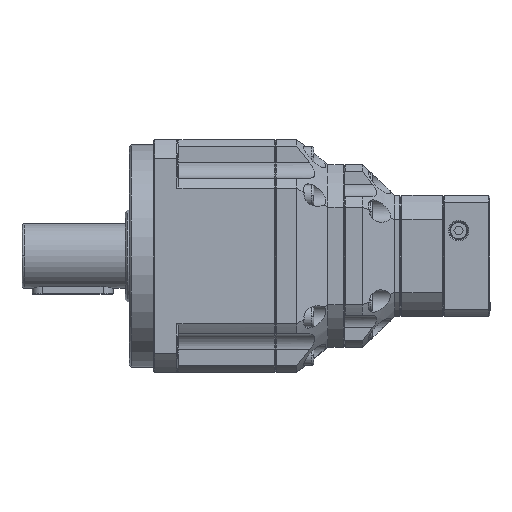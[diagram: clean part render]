
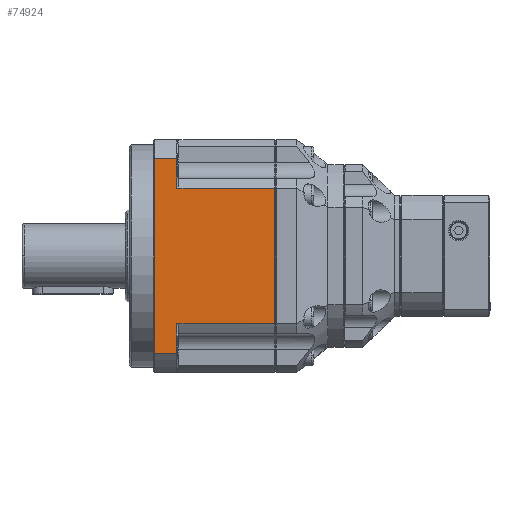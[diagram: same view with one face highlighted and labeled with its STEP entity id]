
A CAD part, left-side view. The second image highlights one B-rep face of the part: STEP entity #74924.
In plain terms, the highlighted planar face has unit normal (1, 0, 0).
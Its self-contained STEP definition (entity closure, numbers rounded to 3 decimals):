
#4573 = CARTESIAN_POINT ( 'NONE',  ( -57.5, -4.611, 33.407 ) ) ;
#5194 = CARTESIAN_POINT ( 'NONE',  ( -57.5, -4.611, 48.153 ) ) ;
#6293 = EDGE_CURVE ( 'NONE', #39602, #89781, #100715, .T. ) ;
#6924 = VECTOR ( 'NONE', #90821, 1000. ) ;
#13587 = DIRECTION ( 'NONE',  ( 1., 0., 0. ) ) ;
#15320 = VERTEX_POINT ( 'NONE', #50608 ) ;
#15708 = EDGE_LOOP ( 'NONE', ( #102099, #62861, #65516, #45452, #30607, #35728, #26485, #18986 ) ) ;
#18986 = ORIENTED_EDGE ( 'NONE', *, *, #101009, .F. ) ;
#21243 = CARTESIAN_POINT ( 'NONE',  ( -57.5, 24.889, 48.153 ) ) ;
#22762 = CARTESIAN_POINT ( 'NONE',  ( -57.5, 24.889, 0. ) ) ;
#22799 = VERTEX_POINT ( 'NONE', #61180 ) ;
#23079 = VERTEX_POINT ( 'NONE', #21243 ) ;
#24602 = DIRECTION ( 'NONE',  ( 0., 0., 1. ) ) ;
#25306 = CARTESIAN_POINT ( 'NONE',  ( -57.5, 13.889, 33.407 ) ) ;
#26485 = ORIENTED_EDGE ( 'NONE', *, *, #43613, .F. ) ;
#27781 = VECTOR ( 'NONE', #54267, 1000. ) ;
#28654 = EDGE_CURVE ( 'NONE', #82470, #22799, #99546, .T. ) ;
#30410 = LINE ( 'NONE', #4573, #27781 ) ;
#30607 = ORIENTED_EDGE ( 'NONE', *, *, #88389, .F. ) ;
#31069 = CARTESIAN_POINT ( 'NONE',  ( -57.5, 13.889, 0. ) ) ;
#31195 = FACE_OUTER_BOUND ( 'NONE', #15708, .T. ) ;
#35728 = ORIENTED_EDGE ( 'NONE', *, *, #42107, .T. ) ;
#39602 = VERTEX_POINT ( 'NONE', #58787 ) ;
#39853 = LINE ( 'NONE', #73949, #6924 ) ;
#42107 = EDGE_CURVE ( 'NONE', #89035, #75285, #47083, .T. ) ;
#43613 = EDGE_CURVE ( 'NONE', #23079, #75285, #103329, .T. ) ;
#43999 = VECTOR ( 'NONE', #64089, 1000. ) ;
#44933 = DIRECTION ( 'NONE',  ( 0., -1., 0. ) ) ;
#45452 = ORIENTED_EDGE ( 'NONE', *, *, #6293, .F. ) ;
#47057 = CARTESIAN_POINT ( 'NONE',  ( -57.5, -34.111, 48.153 ) ) ;
#47083 = LINE ( 'NONE', #105561, #66923 ) ;
#48770 = CARTESIAN_POINT ( 'NONE',  ( -57.5, 24.889, -48.153 ) ) ;
#50608 = CARTESIAN_POINT ( 'NONE',  ( -57.5, -34.111, 33.407 ) ) ;
#54267 = DIRECTION ( 'NONE',  ( 0., 1., 0. ) ) ;
#56424 = DIRECTION ( 'NONE',  ( 0., 0., 1. ) ) ;
#58070 = CARTESIAN_POINT ( 'NONE',  ( -57.5, -34.111, 0. ) ) ;
#58787 = CARTESIAN_POINT ( 'NONE',  ( -57.5, 13.889, -33.407 ) ) ;
#59197 = VECTOR ( 'NONE', #24602, 1000. ) ;
#59968 = EDGE_CURVE ( 'NONE', #15320, #82470, #30410, .T. ) ;
#61180 = CARTESIAN_POINT ( 'NONE',  ( -57.5, 13.889, 48.153 ) ) ;
#62861 = ORIENTED_EDGE ( 'NONE', *, *, #59968, .F. ) ;
#63665 = DIRECTION ( 'NONE',  ( 0., 1., 0. ) ) ;
#64089 = DIRECTION ( 'NONE',  ( 0., 1., 0. ) ) ;
#65516 = ORIENTED_EDGE ( 'NONE', *, *, #92688, .F. ) ;
#66850 = CARTESIAN_POINT ( 'NONE',  ( -57.5, 13.889, -48.153 ) ) ;
#66923 = VECTOR ( 'NONE', #63665, 1000. ) ;
#71062 = AXIS2_PLACEMENT_3D ( 'NONE', #47057, #13587, #72492 ) ;
#72492 = DIRECTION ( 'NONE',  ( 0., 0., -1. ) ) ;
#73949 = CARTESIAN_POINT ( 'NONE',  ( -57.5, 13.889, 0. ) ) ;
#74924 = ADVANCED_FACE ( 'NONE', ( #31195 ), #105553, .T. ) ;
#75285 = VERTEX_POINT ( 'NONE', #48770 ) ;
#78327 = VECTOR ( 'NONE', #44933, 1000. ) ;
#81526 = LINE ( 'NONE', #58070, #59197 ) ;
#82470 = VERTEX_POINT ( 'NONE', #25306 ) ;
#82562 = CARTESIAN_POINT ( 'NONE',  ( -57.5, -34.111, -33.407 ) ) ;
#83588 = VECTOR ( 'NONE', #90069, 1000. ) ;
#86902 = CARTESIAN_POINT ( 'NONE',  ( -57.5, -4.611, -33.407 ) ) ;
#88389 = EDGE_CURVE ( 'NONE', #89035, #39602, #39853, .T. ) ;
#88772 = LINE ( 'NONE', #5194, #43999 ) ;
#89035 = VERTEX_POINT ( 'NONE', #66850 ) ;
#89781 = VERTEX_POINT ( 'NONE', #82562 ) ;
#90069 = DIRECTION ( 'NONE',  ( 0., 0., -1. ) ) ;
#90821 = DIRECTION ( 'NONE',  ( 0., 0., 1. ) ) ;
#92688 = EDGE_CURVE ( 'NONE', #89781, #15320, #81526, .T. ) ;
#96891 = VECTOR ( 'NONE', #56424, 1000. ) ;
#99546 = LINE ( 'NONE', #31069, #96891 ) ;
#100715 = LINE ( 'NONE', #86902, #78327 ) ;
#101009 = EDGE_CURVE ( 'NONE', #22799, #23079, #88772, .T. ) ;
#102099 = ORIENTED_EDGE ( 'NONE', *, *, #28654, .F. ) ;
#103329 = LINE ( 'NONE', #22762, #83588 ) ;
#105553 = PLANE ( 'NONE',  #71062 ) ;
#105561 = CARTESIAN_POINT ( 'NONE',  ( -57.5, 19.389, -48.153 ) ) ;
